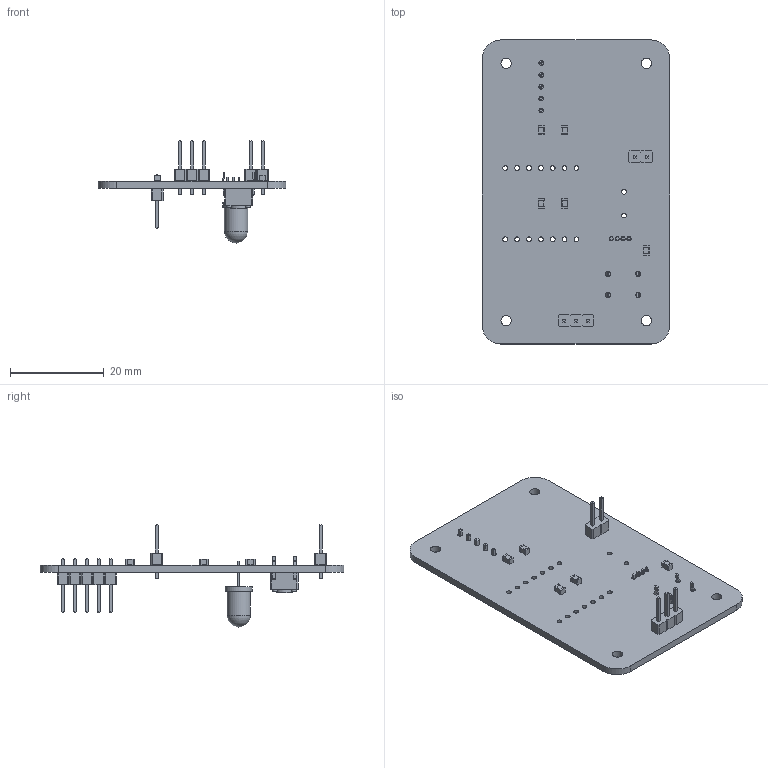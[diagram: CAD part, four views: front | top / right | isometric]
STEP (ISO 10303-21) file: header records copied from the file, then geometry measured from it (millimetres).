
FILE_DESCRIPTION(('KiCad electronic assembly'),'2;1');
FILE_NAME('schematic.step','2026-03-07T12:27:03',('Pcbnew'),('Kicad'), 'Open CASCADE STEP processor 7.9','KiCad to STEP converter','Unknown' );
FILE_SCHEMA(('AUTOMOTIVE_DESIGN { 1 0 10303 214 1 1 1 1 }'));
Length unit declared in the file: millimetre
Products named in the file (8): schematic 1; C_0805_2012Metric; PinHeader_1x02_P2.54mm_Vertical; PinHeader_1x03_P2.54mm_Vertical; PinHeader_1x05_P2.54mm_Vertical; SW_PUSH_6mm; LED_D5.0mm-4_RGB; schematic_PCB
Assembly tree (11 placements, depth 2):
  schematic 1
    C_0805_2012Metric  x5
    PinHeader_1x02_P2.54mm_Vertical
    PinHeader_1x03_P2.54mm_Vertical
    PinHeader_1x05_P2.54mm_Vertical
    SW_PUSH_6mm
    LED_D5.0mm-4_RGB
    schematic_PCB
Bounding box: 40.12 x 65 x 21.82 mm (x, y, z)
Volume: 4368.2 mm3; surface area: 6609 mm2
Topology: 11 solids, 11 shells, 571 faces, 1434 edges, 923 vertices
Faces by surface type: plane 424, cylinder 145, torus 1, sphere 1
Full cylindrical faces by diameter (mm): 0.9 x4, 1 x14, 1.016 x16, 1.1 x4, 2.2 x4, 3.5 x1, 5 x1
Entity records: 16646 total; most frequent: CARTESIAN_POINT 2348, ORIENTED_EDGE 2290, DIRECTION 2281, EDGE_CURVE 1145, LINE 951, VECTOR 951, VERTEX_POINT 732, AXIS2_PLACEMENT_3D 665
